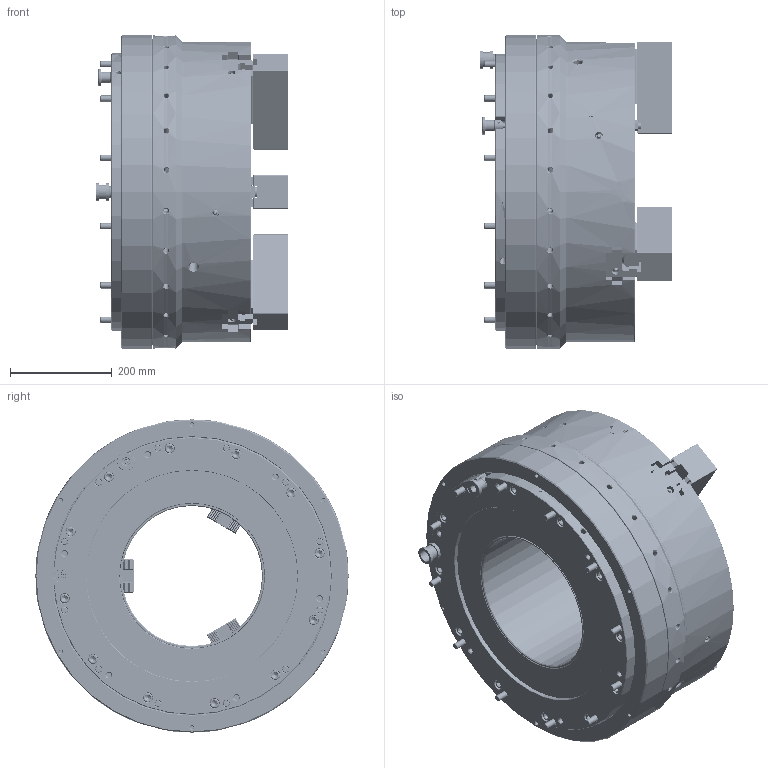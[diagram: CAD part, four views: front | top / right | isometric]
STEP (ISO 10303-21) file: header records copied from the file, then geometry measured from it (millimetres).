
FILE_DESCRIPTION (( 'STEP AP214' ), '1' );
FILE_NAME ('UPR600A275_OC.STEP', '2025-10-23T03:21:59', ( '' ), ( '' ), 'SwSTEP 2.0', 'SolidWorks 2022', '' );
FILE_SCHEMA (( 'AUTOMOTIVE_DESIGN' ));
Length unit declared in the file: millimetre
Products named in the file (5): Copy of 61P372874^UPR600A275_VIEW; Part3^UPR600A275_VIEW; Copy of 61P493019^UPR600A275_VIEW; Copy of 0030120050^UPR600A275_VIEW; UPR600A275_OC
Assembly tree (16 placements, depth 2):
  UPR600A275_OC
    Copy of 61P372874^UPR600A275_VIEW  x3
    Copy of 61P493019^UPR600A275_VIEW  x6
    Copy of 0030120050^UPR600A275_VIEW  x6
    Part3^UPR600A275_VIEW
Bounding box: 378.3 x 615 x 615 mm (x, y, z)
Volume: 61053066.3 mm3; surface area: 2659297.6 mm2
Topology: 17 solids, 24 shells, 9083 faces, 24880 edges, 16210 vertices
Faces by surface type: plane 4633, cylinder 2261, bspline 1117, cone 934, torus 126, sphere 12
Entity records: 270214 total; most frequent: CARTESIAN_POINT 100247, ORIENTED_EDGE 38692, DIRECTION 29043, EDGE_CURVE 19346, VERTEX_POINT 12655, VECTOR 12117, LINE 12117, AXIS2_PLACEMENT_3D 8463
